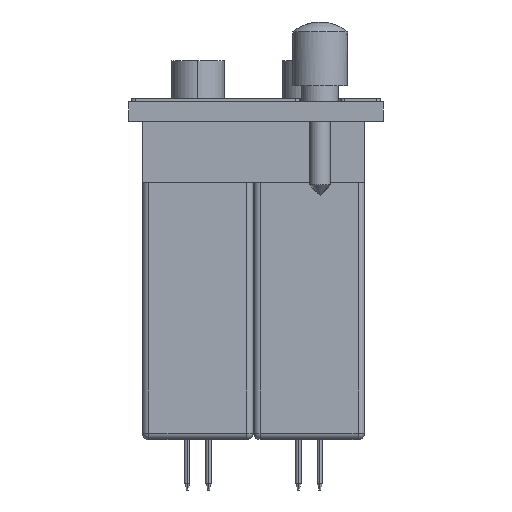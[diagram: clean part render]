
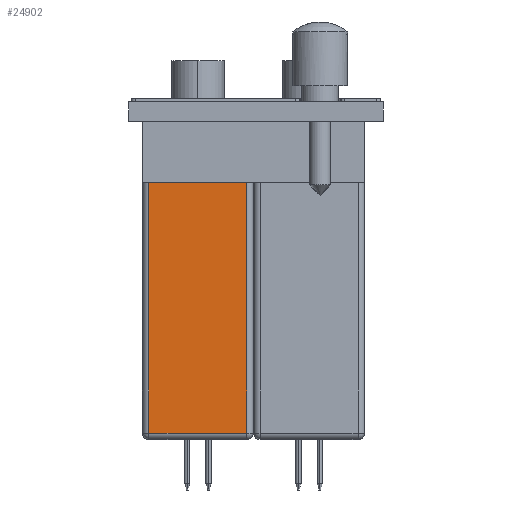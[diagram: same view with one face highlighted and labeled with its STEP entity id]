
A CAD part, front view. The second image highlights one B-rep face of the part: STEP entity #24902.
In plain terms, the highlighted planar face has unit normal (0, -1, 0).
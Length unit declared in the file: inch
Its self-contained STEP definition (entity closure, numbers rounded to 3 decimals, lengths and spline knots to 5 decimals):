
#8336=DIRECTION('',(0.,0.,1.));
#8337=VECTOR('',#8336,1.171);
#8338=CARTESIAN_POINT('',(-0.261,0.1845,-1.217));
#8339=LINE('',#8338,#8337);
#8345=DIRECTION('',(1.,0.,0.));
#8346=VECTOR('',#8345,0.458);
#8347=CARTESIAN_POINT('',(-0.261,0.1845,-0.046));
#8348=LINE('',#8347,#8346);
#8358=DIRECTION('',(-1.,0.,0.));
#8359=VECTOR('',#8358,0.458);
#8360=CARTESIAN_POINT('',(0.197,0.1845,-1.217));
#8361=LINE('',#8360,#8359);
#8514=DIRECTION('',(0.,0.,-1.));
#8515=VECTOR('',#8514,1.171);
#8516=CARTESIAN_POINT('',(0.197,0.1845,-0.046));
#8517=LINE('',#8516,#8515);
#10549=CARTESIAN_POINT('',(0.197,0.1845,-1.217));
#10550=CARTESIAN_POINT('',(-0.261,0.1845,-1.217));
#10551=VERTEX_POINT('',#10549);
#10552=VERTEX_POINT('',#10550);
#10563=CARTESIAN_POINT('',(-0.261,0.1845,-0.046));
#10564=VERTEX_POINT('',#10563);
#10567=CARTESIAN_POINT('',(0.197,0.1845,-0.046));
#10568=VERTEX_POINT('',#10567);
#24889=CARTESIAN_POINT('',(-0.291,0.1845,-0.046));
#24890=DIRECTION('',(0.,-1.,0.));
#24891=DIRECTION('',(0.,0.,-1.));
#24892=AXIS2_PLACEMENT_3D('',#24889,#24890,#24891);
#24893=PLANE('',#24892);
#24895=ORIENTED_EDGE('',*,*,#24894,.T.);
#24896=ORIENTED_EDGE('',*,*,#24883,.T.);
#24897=ORIENTED_EDGE('',*,*,#12214,.T.);
#24899=ORIENTED_EDGE('',*,*,#24898,.T.);
#24900=EDGE_LOOP('',(#24895,#24896,#24897,#24899));
#24901=FACE_OUTER_BOUND('',#24900,.F.);
#24902=ADVANCED_FACE('',(#24901),#24893,.T.);
#12214=EDGE_CURVE('',#10564,#10568,#8348,.T.);
#24883=EDGE_CURVE('',#10552,#10564,#8339,.T.);
#24894=EDGE_CURVE('',#10551,#10552,#8361,.T.);
#24898=EDGE_CURVE('',#10568,#10551,#8517,.T.);
